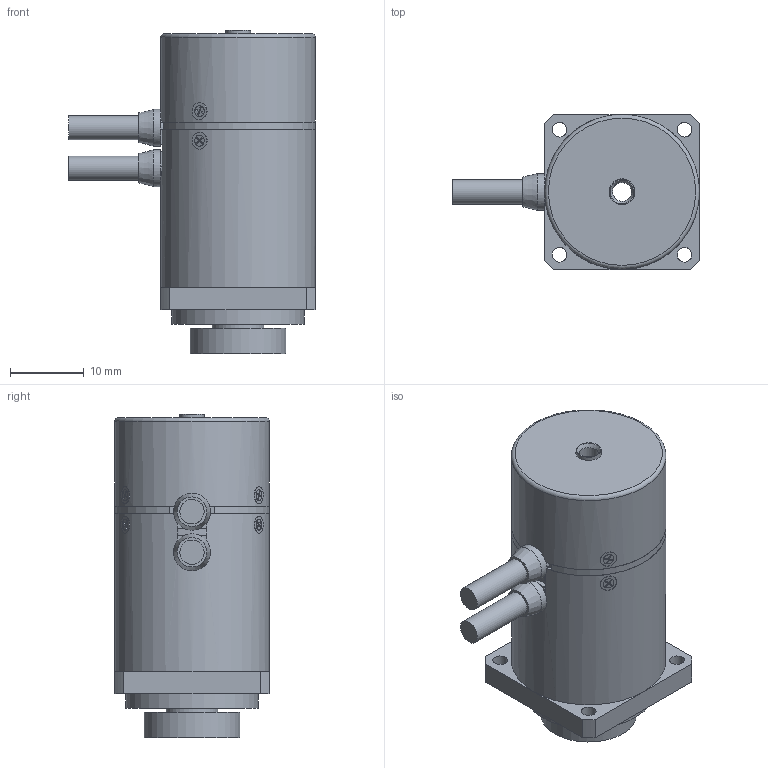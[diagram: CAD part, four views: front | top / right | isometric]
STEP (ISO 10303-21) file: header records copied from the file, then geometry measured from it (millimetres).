
FILE_DESCRIPTION(('STEP AP214'),'1');
FILE_NAME('MDH-2012.stp','2017-10-10T07:01:07',(' '),(' '),'Spatial InterOp 3D',' ',' ');
FILE_SCHEMA(('automotive_design'));
Length unit declared in the file: millimetre
Products named in the file (11): ケーブル; タッピングネジ M1.4x2.2; サラコネジ M1.4x2.5; ｱﾝｷﾞｭﾗﾍﾞｱﾘﾝｸﾞ MTA04-11; ｱﾝｷﾞｭﾗﾍﾞｱﾘﾝｸﾞ MTA05-13; ブッシュ; カバー_H; ベース; シャフト_H2012; ケース_2012
Assembly tree (16 placements, depth 2):
  (unnamed)
    ケーブル  x2
    タッピングネジ M1.4x2.2  x3
    サラコネジ M1.4x2.5  x3
    ｱﾝｷﾞｭﾗﾍﾞｱﾘﾝｸﾞ MTA04-11
    ｱﾝｷﾞｭﾗﾍﾞｱﾘﾝｸﾞ MTA05-13
    ブッシュ  x2
    カバー_H
    ベース
    シャフト_H2012
    ケース_2012
Bounding box: 33.5 x 21 x 43.95 mm (x, y, z)
Volume: 5650.4 mm3; surface area: 11612.7 mm2
Topology: 17 solids, 18 shells, 359 faces, 840 edges, 546 vertices
Faces by surface type: plane 201, cylinder 119, cone 29, torus 10
Full cylindrical faces by diameter (mm): 0.75 x6, 1.1 x6, 1.25 x6, 1.4 x12, 1.5 x6, 2 x4, 2.3 x6, 2.6 x1, 3.3 x4, 3.4 x1, 3.5 x1, 4 x3, 4.2 x1, 5 x4, 6 x1, 6.2 x4, 7 x1, 7.2 x3, 7.3 x1, 7.6 x1, 8.1 x1, 8.6 x1, 9.5 x5, 9.9 x1, 11 x2, 11.2 x1, 11.3 x3, 11.5 x1, 13 x3, 16 x1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
Entity records: 9544 total; most frequent: CARTESIAN_POINT 1735, DIRECTION 1180, ORIENTED_EDGE 908, AXIS2_PLACEMENT_3D 486, EDGE_CURVE 454, EDGE_LOOP 452, VERTEX_POINT 359, FACE_OUTER_BOUND 353
